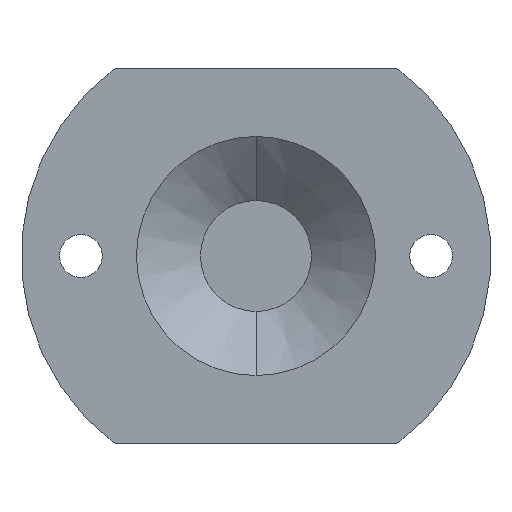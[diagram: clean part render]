
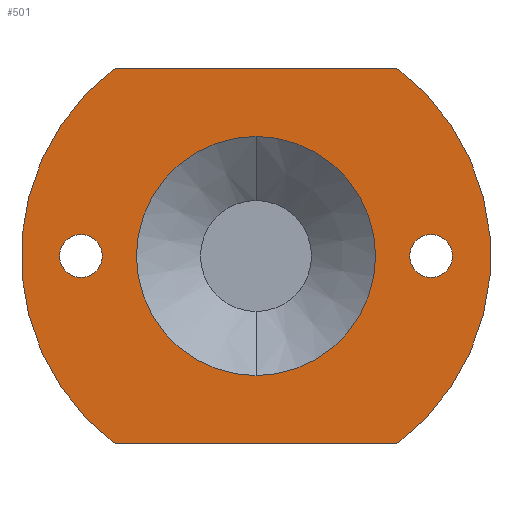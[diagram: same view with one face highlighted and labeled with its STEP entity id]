
A CAD part, front view. The second image highlights one B-rep face of the part: STEP entity #501.
In plain terms, the highlighted planar face has unit normal (0, -1, 0).
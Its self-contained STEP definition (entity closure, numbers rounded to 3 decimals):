
#4 = ORIENTED_EDGE ( 'NONE', *, *, #373, .T. ) ;
#8 = DIRECTION ( 'NONE',  ( 0., 1., 0. ) ) ;
#18 = VERTEX_POINT ( 'NONE', #66 ) ;
#24 = DIRECTION ( 'NONE',  ( 0., 0., -1. ) ) ;
#43 = FACE_BOUND ( 'NONE', #387, .T. ) ;
#49 = VERTEX_POINT ( 'NONE', #623 ) ;
#51 = CARTESIAN_POINT ( 'NONE',  ( -3.841, 0., -14.08 ) ) ;
#53 = ORIENTED_EDGE ( 'NONE', *, *, #705, .T. ) ;
#63 = ORIENTED_EDGE ( 'NONE', *, *, #809, .T. ) ;
#66 = CARTESIAN_POINT ( 'NONE',  ( -44.841, 0., -11.58 ) ) ;
#82 = DIRECTION ( 'NONE',  ( 0., -1., 0. ) ) ;
#85 = DIRECTION ( 'NONE',  ( 0., 1., 0. ) ) ;
#86 = DIRECTION ( 'NONE',  ( 0., 0., -1. ) ) ;
#91 = CARTESIAN_POINT ( 'NONE',  ( -24.341, 0., -14.08 ) ) ;
#105 = CIRCLE ( 'NONE', #124, 2.5 ) ;
#109 = DIRECTION ( 'NONE',  ( 0., 0., -1. ) ) ;
#114 = DIRECTION ( 'NONE',  ( 0., 1., 0. ) ) ;
#123 = VERTEX_POINT ( 'NONE', #627 ) ;
#124 = AXIS2_PLACEMENT_3D ( 'NONE', #268, #114, #109 ) ;
#130 = EDGE_LOOP ( 'NONE', ( #502, #658, #4, #740 ) ) ;
#132 = EDGE_CURVE ( 'NONE', #467, #49, #347, .T. ) ;
#140 = CARTESIAN_POINT ( 'NONE',  ( -40.841, 0., -36.08 ) ) ;
#141 = FACE_BOUND ( 'NONE', #478, .T. ) ;
#148 = ORIENTED_EDGE ( 'NONE', *, *, #465, .T. ) ;
#155 = CARTESIAN_POINT ( 'NONE',  ( -24.341, 0., 7.92 ) ) ;
#156 = CARTESIAN_POINT ( 'NONE',  ( -3.841, 0., -16.58 ) ) ;
#158 = LINE ( 'NONE', #155, #867 ) ;
#159 = DIRECTION ( 'NONE',  ( 0., 0., -1. ) ) ;
#160 = DIRECTION ( 'NONE',  ( 0., 1., 0. ) ) ;
#164 = VERTEX_POINT ( 'NONE', #664 ) ;
#181 = LINE ( 'NONE', #574, #785 ) ;
#211 = FACE_OUTER_BOUND ( 'NONE', #130, .T. ) ;
#215 = AXIS2_PLACEMENT_3D ( 'NONE', #91, #160, #660 ) ;
#224 = DIRECTION ( 'NONE',  ( 0., 1., 0. ) ) ;
#225 = FACE_BOUND ( 'NONE', #386, .T. ) ;
#228 = DIRECTION ( 'NONE',  ( 0., -1., 0. ) ) ;
#229 = CARTESIAN_POINT ( 'NONE',  ( -24.341, 0., -14.08 ) ) ;
#231 = PLANE ( 'NONE',  #685 ) ;
#251 = ORIENTED_EDGE ( 'NONE', *, *, #324, .T. ) ;
#268 = CARTESIAN_POINT ( 'NONE',  ( -3.841, 0., -14.08 ) ) ;
#286 = CARTESIAN_POINT ( 'NONE',  ( -44.841, 0., -14.08 ) ) ;
#324 = EDGE_CURVE ( 'NONE', #49, #467, #753, .T. ) ;
#345 = VERTEX_POINT ( 'NONE', #156 ) ;
#347 = CIRCLE ( 'NONE', #215, 14. ) ;
#353 = DIRECTION ( 'NONE',  ( -1., 0., 0. ) ) ;
#355 = CARTESIAN_POINT ( 'NONE',  ( -24.341, 0., -28.08 ) ) ;
#373 = EDGE_CURVE ( 'NONE', #164, #481, #628, .T. ) ;
#374 = ORIENTED_EDGE ( 'NONE', *, *, #132, .T. ) ;
#378 = CARTESIAN_POINT ( 'NONE',  ( -44.841, 0., -14.08 ) ) ;
#379 = VERTEX_POINT ( 'NONE', #707 ) ;
#386 = EDGE_LOOP ( 'NONE', ( #541, #148 ) ) ;
#387 = EDGE_LOOP ( 'NONE', ( #374, #251 ) ) ;
#398 = CIRCLE ( 'NONE', #662, 2.5 ) ;
#430 = CARTESIAN_POINT ( 'NONE',  ( -24.341, 0., -14.08 ) ) ;
#452 = CARTESIAN_POINT ( 'NONE',  ( -7.841, 0., 7.92 ) ) ;
#458 = VERTEX_POINT ( 'NONE', #476 ) ;
#465 = EDGE_CURVE ( 'NONE', #18, #458, #398, .T. ) ;
#467 = VERTEX_POINT ( 'NONE', #355 ) ;
#476 = CARTESIAN_POINT ( 'NONE',  ( -44.841, 0., -16.58 ) ) ;
#478 = EDGE_LOOP ( 'NONE', ( #63, #53 ) ) ;
#481 = VERTEX_POINT ( 'NONE', #140 ) ;
#495 = EDGE_CURVE ( 'NONE', #458, #18, #704, .T. ) ;
#501 = ADVANCED_FACE ( 'NONE', ( #43, #225, #211, #141 ), #231, .T. ) ;
#502 = ORIENTED_EDGE ( 'NONE', *, *, #857, .T. ) ;
#512 = EDGE_CURVE ( 'NONE', #481, #123, #181, .T. ) ;
#541 = ORIENTED_EDGE ( 'NONE', *, *, #495, .T. ) ;
#553 = DIRECTION ( 'NONE',  ( 0., 0., -1. ) ) ;
#565 = AXIS2_PLACEMENT_3D ( 'NONE', #774, #85, #553 ) ;
#574 = CARTESIAN_POINT ( 'NONE',  ( -24.341, 0., -36.08 ) ) ;
#603 = AXIS2_PLACEMENT_3D ( 'NONE', #826, #228, #697 ) ;
#604 = DIRECTION ( 'NONE',  ( 0., 0., -1. ) ) ;
#623 = CARTESIAN_POINT ( 'NONE',  ( -24.341, 0., -0.08 ) ) ;
#627 = CARTESIAN_POINT ( 'NONE',  ( -7.841, 0., -36.08 ) ) ;
#628 = CIRCLE ( 'NONE', #741, 27.5 ) ;
#658 = ORIENTED_EDGE ( 'NONE', *, *, #840, .T. ) ;
#660 = DIRECTION ( 'NONE',  ( 0., 0., -1. ) ) ;
#662 = AXIS2_PLACEMENT_3D ( 'NONE', #286, #8, #692 ) ;
#664 = CARTESIAN_POINT ( 'NONE',  ( -40.841, 0., 7.92 ) ) ;
#685 = AXIS2_PLACEMENT_3D ( 'NONE', #430, #82, #159 ) ;
#692 = DIRECTION ( 'NONE',  ( 0., 0., -1. ) ) ;
#697 = DIRECTION ( 'NONE',  ( 0., 0., -1. ) ) ;
#700 = DIRECTION ( 'NONE',  ( 1., 0., 0. ) ) ;
#702 = DIRECTION ( 'NONE',  ( 0., -1., 0. ) ) ;
#704 = CIRCLE ( 'NONE', #842, 2.5 ) ;
#705 = EDGE_CURVE ( 'NONE', #379, #345, #105, .T. ) ;
#707 = CARTESIAN_POINT ( 'NONE',  ( -3.841, 0., -11.58 ) ) ;
#725 = VERTEX_POINT ( 'NONE', #452 ) ;
#737 = DIRECTION ( 'NONE',  ( 0., 1., 0. ) ) ;
#740 = ORIENTED_EDGE ( 'NONE', *, *, #512, .T. ) ;
#741 = AXIS2_PLACEMENT_3D ( 'NONE', #229, #702, #86 ) ;
#753 = CIRCLE ( 'NONE', #565, 14. ) ;
#774 = CARTESIAN_POINT ( 'NONE',  ( -24.341, 0., -14.08 ) ) ;
#779 = CIRCLE ( 'NONE', #603, 27.5 ) ;
#785 = VECTOR ( 'NONE', #700, 1000. ) ;
#809 = EDGE_CURVE ( 'NONE', #345, #379, #841, .T. ) ;
#826 = CARTESIAN_POINT ( 'NONE',  ( -24.341, 0., -14.08 ) ) ;
#840 = EDGE_CURVE ( 'NONE', #725, #164, #158, .T. ) ;
#841 = CIRCLE ( 'NONE', #876, 2.5 ) ;
#842 = AXIS2_PLACEMENT_3D ( 'NONE', #378, #224, #24 ) ;
#857 = EDGE_CURVE ( 'NONE', #123, #725, #779, .T. ) ;
#867 = VECTOR ( 'NONE', #353, 1000. ) ;
#876 = AXIS2_PLACEMENT_3D ( 'NONE', #51, #737, #604 ) ;
